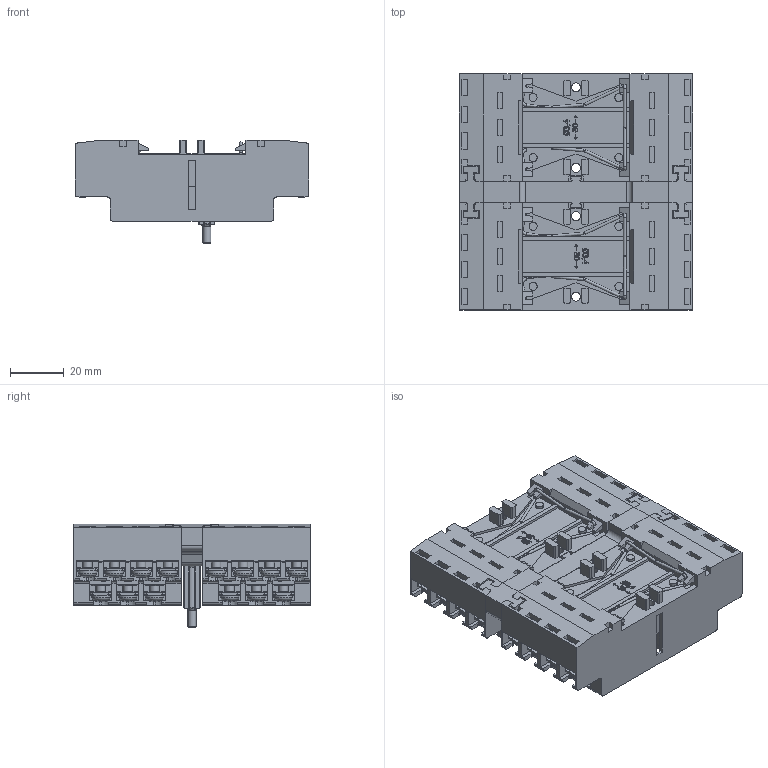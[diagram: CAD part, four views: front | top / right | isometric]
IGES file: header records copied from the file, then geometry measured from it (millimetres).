
Global section: file name: No Iges File Name specified; native system: Autodesk Inventor 2012; preprocessor: AutoDesk Inventor Iges Exporter R2012; author: a.vos; date: 20120116.150432; units: millimetre
Bounding box: 87 x 88 x 38.5 mm (x, y, z)
Volume: 155024.6 mm3; surface area: 51944.7 mm2
Topology: 1 solids, 1 shells, 7619 faces, 20652 edges, 13292 vertices
Faces by surface type: plane 5834, bspline 603, revolution 426, cylinder 417, cone 168, torus 115, sphere 56
Full cylindrical faces by diameter (mm): 1 x24, 3 x9, 3.175 x28, 3.5 x28
